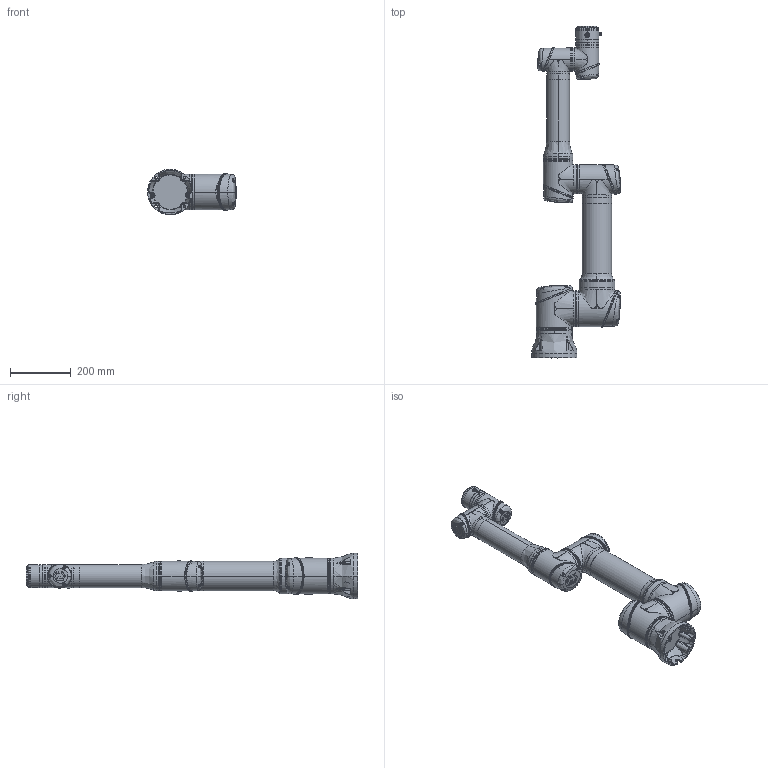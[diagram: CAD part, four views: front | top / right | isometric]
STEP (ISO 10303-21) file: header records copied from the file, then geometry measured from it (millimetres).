
FILE_DESCRIPTION (( 'STEP AP214' ), '1' );
FILE_NAME ('CS_掛极CS66A_V1.3.STEP', '2025-11-17T10:00:31', ( '' ), ( '' ), 'SwSTEP 2.0', 'SolidWorks 2020', '' );
FILE_SCHEMA (( 'AUTOMOTIVE_DESIGN' ));
Length unit declared in the file: millimetre
Products named in the file (8): CS66A_Link5; CS66A_Link2; CS_掛极CS66A_V1.3; CS66F_藺傷; CS66A_Link1; CS66A_Link3; CS66A_Link4; CS66A_Base
Assembly tree (7 placements, depth 2):
  CS_掛极CS66A_V1.3
    CS66A_Base
    CS66A_Link1
    CS66A_Link2
    CS66A_Link3
    CS66A_Link4
    CS66A_Link5
    CS66F_藺傷
Bounding box: 293.79 x 1095 x 149.7 mm (x, y, z)
Volume: 9537432.6 mm3; surface area: 833127.7 mm2
Topology: 21 solids, 154 shells, 6525 faces, 15926 edges, 9523 vertices
Faces by surface type: bspline 3484, plane 1173, cylinder 897, cone 694, torus 160, sphere 117
Entity records: 789690 total; most frequent: CARTESIAN_POINT 662277, ORIENTED_EDGE 31025, DIRECTION 16160, EDGE_CURVE 15514, VERTEX_POINT 9495, B_SPLINE_CURVE_WITH_KNOTS 8762, EDGE_LOOP 6828, AXIS2_PLACEMENT_3D 6663
